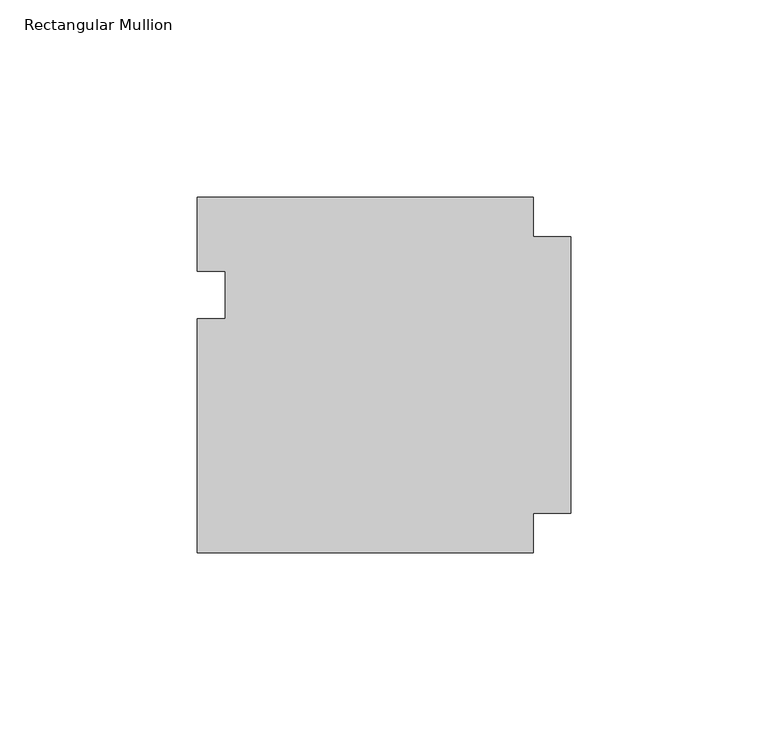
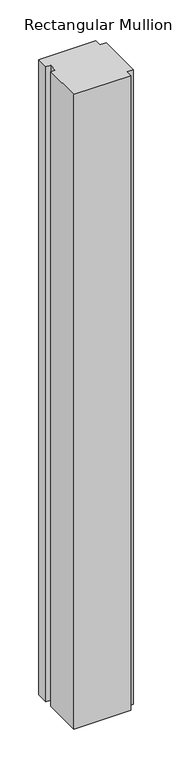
"""IFC4 building model written with IfcOpenShell, lengths in millimetres: member geometry, Rectangular Mullion : Klein_Nature_Profile-Top-Panel."""

from ifc_helpers import new_model, si_unit, frame, origin, place, context, project, spatial, polyline, outline, extrude, source, transform, mapped, element, save


def rectangular_mullion_f57d7881(model_context):
    return source(origin(), model_context, "Body", "SweptSolid", [
        extrude(outline(polyline([(-94.4999952, -45.0000043), (-94.4999996, 14.3000051), (-87.4999975, 14.3000046), (-87.4999966, 26.3000046), (-94.5000005, 26.3000051), (-94.5000018, 44.9999957), (-9.5000061, 45.0000019), (-9.5000054, 34.9999969), (-5.1e-06, 34.9999976), (0.0, -34.9999976), (-9.5000002, -34.9999983), (-9.4999995, -44.9999981), (-94.4999952, -45.0000043)])), frame((0.0, 0.0, -1000.0000002), z_axis=(0.0, 0.0, 1.0), x_axis=(1.0, 0.0, 0.0)), (0.0, 0.0, 1.0), 1000.0000002),
    ])


if __name__ == "__main__":
    model = new_model("IFC4")
    model_context = context("Model", 3, world=origin())
    ifc_project = project(units=[si_unit("LENGTHUNIT", "METRE", prefix="MILLI")], contexts=[model_context])
    site = spatial("IfcSite", under=ifc_project)
    building = spatial("IfcBuilding", under=site)
    placement = place(None, origin())
    rectangular_mullion_shape = rectangular_mullion_f57d7881(model_context)
    element("IfcMember", 1, ObjectType="Rectangular Mullion : Klein_Nature_Profile-Top-Panel", at=placement, inside=building, context=model_context, shape_type="MappedRepresentation", body=[
        mapped(rectangular_mullion_shape, transform((0.0, 0.0, 0.0), x_axis=(1.0, 0.0, 0.0), y_axis=(0.0, 1.0, 0.0), z_axis=(0.0, 0.0, 1.0))),
    ])
    save(model, "model.ifc")
